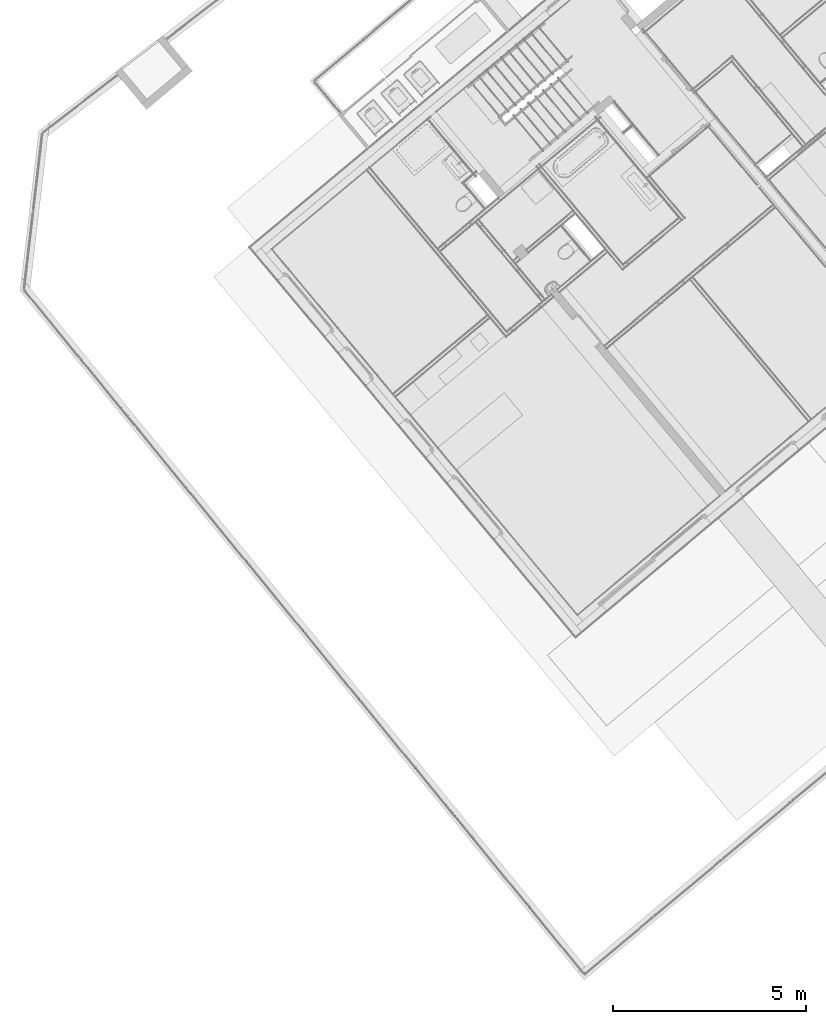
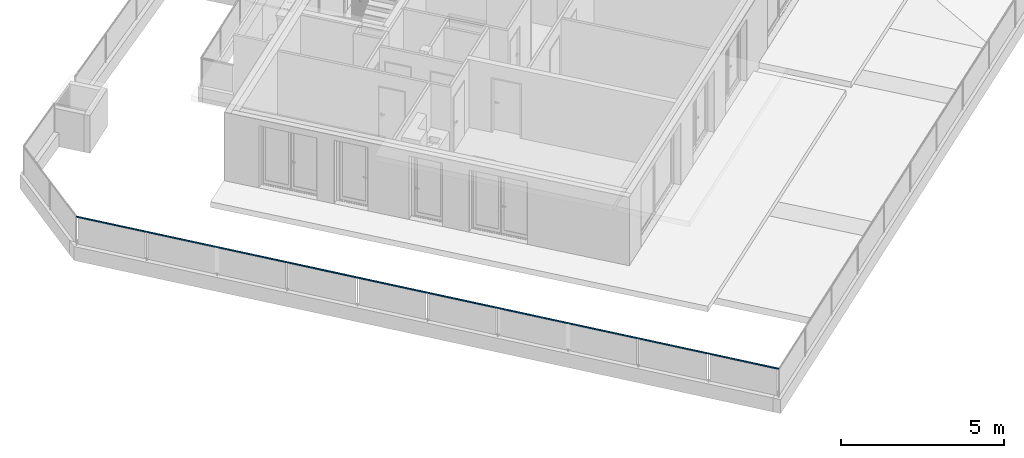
# One storey, part 18 of 67: 1 building element part, 1 element without a shape of its own.
"""IFC4 building model written with IfcOpenShell, lengths in metres."""

from ifc_helpers import new_model, entity, si_unit, converted_unit, derived_unit, direction, frame, origin_with_axes, place, context, subcontext, project, spatial, polygons, material, type_object, element, aggregate, save


model = new_model("IFC4")

# Units and contexts
model_context = context("Model", 3, precision=1e-05, world=origin_with_axes(), true_north=direction((0.0, 1.0)))
body_context = subcontext(model_context, "Body", "Model", "MODEL_VIEW")
ifc_project = project(units=[si_unit("LENGTHUNIT", "METRE"), si_unit("AREAUNIT", "SQUARE_METRE"), si_unit("VOLUMEUNIT", "CUBIC_METRE"), converted_unit("PLANEANGLEUNIT", "DEGREE", entity("IfcPlaneAngleMeasure", 0.0174532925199), si_unit("PLANEANGLEUNIT", "RADIAN"), dimensions=[0, 0, 0, 0, 0, 0, 0]), converted_unit("TIMEUNIT", "Year", entity("IfcTimeMeasure", 31556926.0), si_unit("TIMEUNIT", "SECOND"), dimensions=[0, 0, 1, 0, 0, 0, 0]), si_unit("MASSUNIT", "GRAM", prefix="KILO"), si_unit("THERMODYNAMICTEMPERATUREUNIT", "DEGREE_CELSIUS"), si_unit("LUMINOUSINTENSITYUNIT", "LUMEN"), si_unit("ENERGYUNIT", "JOULE", prefix="MEGA"), derived_unit("THERMALCONDUCTANCEUNIT", [(si_unit("POWERUNIT", "WATT"), 1), (si_unit("LENGTHUNIT", "METRE"), -1), (si_unit("THERMODYNAMICTEMPERATUREUNIT", "KELVIN"), -1)]), derived_unit("SPECIFICHEATCAPACITYUNIT", [(si_unit("ENERGYUNIT", "JOULE"), 1), (si_unit("MASSUNIT", "GRAM", prefix="KILO"), -1), (si_unit("THERMODYNAMICTEMPERATUREUNIT", "KELVIN"), -1)]), derived_unit("MASSDENSITYUNIT", [(si_unit("MASSUNIT", "GRAM", prefix="KILO"), 1), (si_unit("VOLUMEUNIT", "CUBIC_METRE"), -1)])], contexts=[model_context])

# Site, building, storey
site_placement = place(None, frame((-0.00153261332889, -0.00661245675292, 0.0), z_axis=(0.0, 0.0, 1.0), x_axis=(1.0, 0.0, 0.0)))
site = spatial("IfcSite", under=ifc_project, at=site_placement, Name="Site", CompositionType="ELEMENT")
building_placement = place(site_placement, origin_with_axes())
building = spatial("IfcBuilding", under=site, at=building_placement, Name="Building", CompositionType="ELEMENT")
storey_placement = place(building_placement, frame((0.0, 0.0, -0.22), z_axis=(0.0, 0.0, 1.0), x_axis=(1.0, 0.0, 0.0)))
storey = spatial("IfcBuildingStorey", under=building, at=storey_placement, Name="EG", CompositionType="ELEMENT", Elevation=-0.22)

# Railing, building element part
railing_type = type_object("IfcRailingType", Name="Geländerart", PredefinedType="NOTDEFINED")
railing_placement = place(storey_placement, frame((-12.1608341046, 23.557810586, 0.523948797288), z_axis=(0.0, 0.0, 1.0), x_axis=(1.0, 0.0, 0.0)))
railing = element("IfcRailing", 1, at=railing_placement, inside=storey, type_object=railing_type, Name="Geländer - 001", PredefinedType="NOTDEFINED")
ifc_material = material(Name="Aluminium")
building_element_part_placement = place(railing_placement, origin_with_axes())
building_element_part = element("IfcBuildingElementPart", 2, at=building_element_part_placement, material=ifc_material, Name="Aluminium", PredefinedType="NOTDEFINED", context=body_context, shape_type="Tessellation", body=[
    polygons([(-2.3774611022, -5.65005751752, 1.07636363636), (-2.37770623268, -5.65012924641, 1.07634109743), (12.1743622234, -23.4243631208, 1.07634109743), (12.1743936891, -23.4240304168, 1.07636363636), (-2.3774611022, -5.65005751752, 1.07818181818), (-2.37739667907, -5.65003866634, 1.07820551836), (-2.37395885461, -5.64903270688, 1.0792391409), (-2.37047128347, -5.64801219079, 1.07983921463), (-2.36696050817, -5.64698488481, 1.08000117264), (-2.3668940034, -5.64696542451, 1.08), (-2.36682749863, -5.64694596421, 1.08000117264), (-2.36331672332, -5.64591865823, 1.07983921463), (-2.35982915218, -5.64489814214, 1.0792391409), (-2.35639132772, -5.64389218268, 1.07820551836), (-2.35632690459, -5.64387333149, 1.07818181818), (-2.35632690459, -5.64387333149, 1.07636363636), (-2.35608177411, -5.64380160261, 1.07634109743), (-2.35517402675, -5.64353598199, 1.0761115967), (-2.35430786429, -5.64328252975, 1.07565956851), (-2.35350960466, -5.6430489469, 1.07499874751), (-2.35280350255, -5.64284233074, 1.0741492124), (-2.35221101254, -5.6426689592, 1.07313677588), (-2.35175013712, -5.64253410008, 1.07199220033), (-2.35143487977, -5.642441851, 1.07075026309), (-2.35127481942, -5.64239501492, 1.06944869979), (-2.35127481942, -5.64239501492, 1.06812705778), (-2.35143487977, -5.642441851, 1.06682549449), (-2.35175013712, -5.64253410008, 1.06558355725), (-2.35221101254, -5.6426689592, 1.06443898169), (-2.35280350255, -5.64284233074, 1.06342654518), (-2.35350960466, -5.6430489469, 1.06257701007), (-2.35430786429, -5.64328252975, 1.06191618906), (-2.35517402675, -5.64353598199, 1.06146416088), (-2.35608177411, -5.64380160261, 1.06123466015), (-2.35632690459, -5.64387333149, 1.06121212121), (-2.35632690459, -5.64387333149, 1.05818181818), (-2.35649264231, -5.64392182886, 1.05810011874), (-2.35726473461, -5.64414775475, 1.05758389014), (-2.3579625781, -5.64435195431, 1.05688326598), (-2.35856496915, -5.64452822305, 1.05601953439), (-2.35905360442, -5.64467120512, 1.05501893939), (-2.35941363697, -5.6447765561, 1.05391188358), (-2.3596341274, -5.64484107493, 1.05273200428), (-2.35970837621, -5.64486280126, 1.05151515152), (-2.3596341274, -5.64484107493, 1.05029829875), (-2.35941363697, -5.6447765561, 1.04911841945), (-2.35905360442, -5.64467120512, 1.04801136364), (-2.35856496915, -5.64452822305, 1.04701076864), (-2.3579625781, -5.64435195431, 1.04614703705), (-2.35726473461, -5.64414775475, 1.04544641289), (-2.35649264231, -5.64392182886, 1.04493018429), (-2.35632690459, -5.64387333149, 1.04484848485), (-2.35632690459, -5.64387333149, 1.04), (-2.3774611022, -5.65005751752, 1.04), (-2.3774611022, -5.65005751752, 1.04484848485), (-2.37729536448, -5.65000902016, 1.04493018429), (-2.37652327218, -5.64978309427, 1.04544641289), (-2.3758254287, -5.64957889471, 1.04614703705), (-2.37522303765, -5.64940262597, 1.04701076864), (-2.37473440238, -5.64925964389, 1.04801136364), (-2.37437436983, -5.64915429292, 1.04911841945), (-2.3741538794, -5.64908977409, 1.05029829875), (-2.37407963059, -5.64906804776, 1.05151515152), (-2.3741538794, -5.64908977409, 1.05273200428), (-2.37437436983, -5.64915429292, 1.05391188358), (-2.37473440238, -5.64925964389, 1.05501893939), (-2.37522303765, -5.64940262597, 1.05601953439), (-2.3758254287, -5.64957889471, 1.05688326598), (-2.37652327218, -5.64978309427, 1.05758389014), (-2.37729536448, -5.65000902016, 1.05810011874), (-2.3774611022, -5.65005751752, 1.05818181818), (-2.3774611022, -5.65005751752, 1.06121212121), (-2.37770623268, -5.65012924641, 1.06123466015), (-2.37861398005, -5.65039486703, 1.06146416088), (-2.3794801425, -5.65064831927, 1.06191618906), (-2.38027840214, -5.65088190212, 1.06257701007), (-2.38098450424, -5.65108851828, 1.06342654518), (-2.38157699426, -5.65126188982, 1.06443898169), (-2.38203786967, -5.65139674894, 1.06558355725), (-2.38235312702, -5.65148899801, 1.06682549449), (-2.38251318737, -5.6515358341, 1.06812705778), (-2.38251318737, -5.6515358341, 1.06944869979), (-2.38235312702, -5.65148899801, 1.07075026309), (-2.38203786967, -5.65139674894, 1.07199220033), (-2.38157699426, -5.65126188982, 1.07313677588), (-2.38098450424, -5.65108851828, 1.0741492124), (-2.38027840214, -5.65088190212, 1.07499874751), (-2.3794801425, -5.65064831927, 1.07565956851), (-2.37861398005, -5.65039486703, 1.0761115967), (12.1742457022, -23.4255951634, 1.0761115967), (12.1741345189, -23.4267707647, 1.07565956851), (12.1740320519, -23.4278542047, 1.07499874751), (12.1739414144, -23.4288125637, 1.0741492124), (12.1738653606, -23.4296167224, 1.07313677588), (12.1738062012, -23.4302422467, 1.07199220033), (12.1737657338, -23.4306701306, 1.07075026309), (12.1737451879, -23.430887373, 1.06944869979), (12.1737451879, -23.430887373, 1.06812705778), (12.1737657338, -23.4306701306, 1.06682549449), (12.1738062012, -23.4302422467, 1.06558355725), (12.1738653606, -23.4296167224, 1.06443898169), (12.1739414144, -23.4288125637, 1.06342654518), (12.1740320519, -23.4278542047, 1.06257701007), (12.1741345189, -23.4267707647, 1.06191618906), (12.1742457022, -23.4255951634, 1.06146416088), (12.1743622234, -23.4243631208, 1.06123466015), (12.1743936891, -23.4240304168, 1.06121212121), (12.1743936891, -23.4240304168, 1.05818181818), (12.1744149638, -23.4238054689, 1.05810011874), (12.1745140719, -23.4227575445, 1.05758389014), (12.1746036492, -23.4218103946, 1.05688326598), (12.174680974, -23.4209927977, 1.05601953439), (12.1747436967, -23.4203295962, 1.05501893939), (12.1747899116, -23.419840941, 1.05391188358), (12.1748182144, -23.4195416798, 1.05273200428), (12.1748277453, -23.4194409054, 1.05151515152), (12.1748182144, -23.4195416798, 1.05029829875), (12.1747899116, -23.419840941, 1.04911841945), (12.1747436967, -23.4203295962, 1.04801136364), (12.174680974, -23.4209927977, 1.04701076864), (12.1746036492, -23.4218103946, 1.04614703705), (12.1745140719, -23.4227575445, 1.04544641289), (12.1744149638, -23.4238054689, 1.04493018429), (12.1743936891, -23.4240304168, 1.04484848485), (12.1743936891, -23.4240304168, 1.04), (12.1771065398, -23.3953459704, 1.04), (12.1771065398, -23.3953459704, 1.04484848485), (12.1770852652, -23.3955709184, 1.04493018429), (12.176986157, -23.3966188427, 1.04544641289), (12.1768965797, -23.3975659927, 1.04614703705), (12.1768192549, -23.3983835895, 1.04701076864), (12.1767565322, -23.3990467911, 1.04801136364), (12.1767103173, -23.3995354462, 1.04911841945), (12.1766820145, -23.3998347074, 1.05029829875), (12.1766724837, -23.3999354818, 1.05151515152), (12.1766820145, -23.3998347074, 1.05273200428), (12.1767103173, -23.3995354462, 1.05391188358), (12.1767565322, -23.3990467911, 1.05501893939), (12.1768192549, -23.3983835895, 1.05601953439), (12.1768965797, -23.3975659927, 1.05688326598), (12.176986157, -23.3966188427, 1.05758389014), (12.1770852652, -23.3955709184, 1.05810011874), (12.1771065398, -23.3953459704, 1.05818181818), (12.1771065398, -23.3953459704, 1.06121212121), (12.1771380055, -23.3950132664, 1.06123466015), (12.1772545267, -23.3937812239, 1.06146416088), (12.17736571, -23.3926056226, 1.06191618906), (12.1774681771, -23.3915221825, 1.06257701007), (12.1775588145, -23.3905638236, 1.06342654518), (12.1776348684, -23.3897596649, 1.06443898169), (12.1776940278, -23.3891341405, 1.06558355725), (12.1777344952, -23.3887062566, 1.06682549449), (12.177755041, -23.3884890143, 1.06812705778), (12.177755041, -23.3884890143, 1.06944869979), (12.1777344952, -23.3887062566, 1.07075026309), (12.1776940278, -23.3891341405, 1.07199220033), (12.1776348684, -23.3897596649, 1.07313677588), (12.1775588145, -23.3905638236, 1.0741492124), (12.1774681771, -23.3915221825, 1.07499874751), (12.17736571, -23.3926056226, 1.07565956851), (12.1772545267, -23.3937812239, 1.0761115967), (12.1771380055, -23.3950132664, 1.07634109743), (12.1771065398, -23.3953459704, 1.07636363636), (12.1771065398, -23.3953459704, 1.07818181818), (12.1770982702, -23.3954334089, 1.07820551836), (12.1766569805, -23.4000994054, 1.0792391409), (12.1762093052, -23.4048329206, 1.07983921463), (12.1757586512, -23.4095979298, 1.08000117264), (12.1757501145, -23.4096881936, 1.08), (12.1757415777, -23.4097784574, 1.08000117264), (12.1752909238, -23.4145434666, 1.07983921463), (12.1748432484, -23.4192769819, 1.0792391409), (12.1744019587, -23.4239429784, 1.07820551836), (12.1743936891, -23.4240304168, 1.07818181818)], [[[1, 2, 3, 4]], [[1, 5, 6, 7, 8, 9, 10, 11, 12, 13, 14, 15, 16, 17, 18, 19, 20, 21, 22, 23, 24, 25, 26, 27, 28, 29, 30, 31, 32, 33, 34, 35, 36, 37, 38, 39, 40, 41, 42, 43, 44, 45, 46, 47, 48, 49, 50, 51, 52, 53, 54, 55, 56, 57, 58, 59, 60, 61, 62, 63, 64, 65, 66, 67, 68, 69, 70, 71, 72, 73, 74, 75, 76, 77, 78, 79, 80, 81, 82, 83, 84, 85, 86, 87, 88, 89, 2]], [[2, 89, 90, 3]], [[4, 3, 90, 91, 92, 93, 94, 95, 96, 97, 98, 99, 100, 101, 102, 103, 104, 105, 106, 107, 108, 109, 110, 111, 112, 113, 114, 115, 116, 117, 118, 119, 120, 121, 122, 123, 124, 125, 126, 127, 128, 129, 130, 131, 132, 133, 134, 135, 136, 137, 138, 139, 140, 141, 142, 143, 144, 145, 146, 147, 148, 149, 150, 151, 152, 153, 154, 155, 156, 157, 158, 159, 160, 161, 162, 163, 164, 165, 166, 167, 168, 169, 170, 171, 172, 173, 174]], [[5, 1, 4, 174]], [[6, 5, 174, 173]], [[7, 6, 173, 172]], [[8, 7, 172, 171]], [[9, 8, 171, 170]], [[10, 9, 170, 169]], [[11, 10, 169, 168]], [[12, 11, 168, 167]], [[13, 12, 167, 166]], [[14, 13, 166, 165]], [[15, 14, 165, 164]], [[16, 15, 164, 163]], [[17, 16, 163, 162]], [[18, 17, 162, 161]], [[19, 18, 161, 160]], [[20, 19, 160, 159]], [[21, 20, 159, 158]], [[22, 21, 158, 157]], [[23, 22, 157, 156]], [[24, 23, 156, 155]], [[25, 24, 155, 154]], [[26, 25, 154, 153]], [[27, 26, 153, 152]], [[28, 27, 152, 151]], [[29, 28, 151, 150]], [[30, 29, 150, 149]], [[31, 30, 149, 148]], [[32, 31, 148, 147]], [[33, 32, 147, 146]], [[34, 33, 146, 145]], [[35, 34, 145, 144]], [[36, 35, 144, 143]], [[37, 36, 143, 142]], [[38, 37, 142, 141]], [[39, 38, 141, 140]], [[40, 39, 140, 139]], [[41, 40, 139, 138]], [[42, 41, 138, 137]], [[43, 42, 137, 136]], [[44, 43, 136, 135]], [[45, 44, 135, 134]], [[46, 45, 134, 133]], [[47, 46, 133, 132]], [[48, 47, 132, 131]], [[49, 48, 131, 130]], [[50, 49, 130, 129]], [[51, 50, 129, 128]], [[52, 51, 128, 127]], [[53, 52, 127, 126]], [[54, 53, 126, 125]], [[55, 54, 125, 124]], [[56, 55, 124, 123]], [[57, 56, 123, 122]], [[58, 57, 122, 121]], [[59, 58, 121, 120]], [[60, 59, 120, 119]], [[61, 60, 119, 118]], [[62, 61, 118, 117]], [[63, 62, 117, 116]], [[64, 63, 116, 115]], [[65, 64, 115, 114]], [[66, 65, 114, 113]], [[67, 66, 113, 112]], [[68, 67, 112, 111]], [[69, 68, 111, 110]], [[70, 69, 110, 109]], [[71, 70, 109, 108]], [[72, 71, 108, 107]], [[73, 72, 107, 106]], [[74, 73, 106, 105]], [[75, 74, 105, 104]], [[76, 75, 104, 103]], [[77, 76, 103, 102]], [[78, 77, 102, 101]], [[79, 78, 101, 100]], [[80, 79, 100, 99]], [[81, 80, 99, 98]], [[82, 81, 98, 97]], [[83, 82, 97, 96]], [[84, 83, 96, 95]], [[85, 84, 95, 94]], [[86, 85, 94, 93]], [[87, 86, 93, 92]], [[88, 87, 92, 91]], [[89, 88, 91, 90]]], closed=True),
])
aggregate(railing, [building_element_part])

save(model, "model.ifc")
